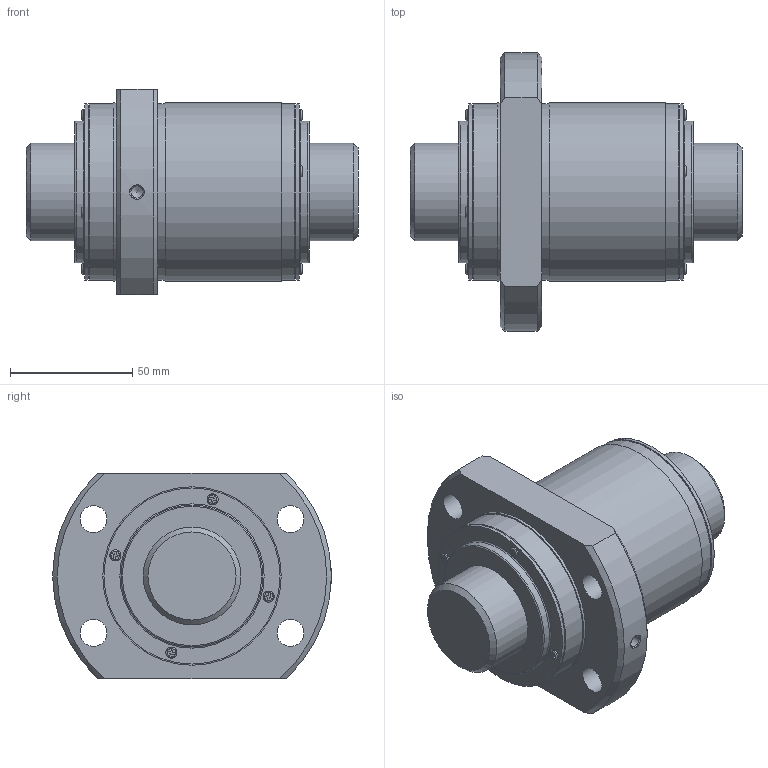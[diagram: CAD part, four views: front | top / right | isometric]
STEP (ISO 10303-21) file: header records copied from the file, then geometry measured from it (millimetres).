
FILE_DESCRIPTION(/* description */ ('STEP AP203'),/* implementation_level */ '2;1');
FILE_NAME(/* name */ 'BLK4040-7.2ZZ+135.8LC7T_000',/* time_stamp */ '2025-06-11T06:31:27+02:00',/* author */ ('License CC BY-ND 4.0'),/* organization */ ('CADENAS'),/* preprocessor_version */ 'ST-DEVELOPER v19.3',/* originating_system */ 'PARTsolutions',/* authorisation */ ' ');
FILE_SCHEMA (('CONFIG_CONTROL_DESIGN'));
Length unit declared in the file: millimetre
Products named in the file (3): BLK4040-7.2ZZ+135.8LC7T_000; BLK4040-7.20ZZ0 Shaft; BLK4040-7.2ZZ Nut
Assembly tree (2 placements, depth 2):
  BLK4040-7.2ZZ+135.8LC7T_000
    BLK4040-7.20ZZ0 Shaft
    BLK4040-7.2ZZ Nut
Bounding box: 135.8 x 114 x 84 mm (x, y, z)
Volume: 503977.2 mm3; surface area: 71320.1 mm2
Topology: 2 solids, 2 shells, 207 faces, 517 edges, 339 vertices
Faces by surface type: plane 127, cylinder 58, torus 12, cone 10
Full cylindrical faces by diameter (mm): 4.54 x8, 4.917 x1, 11 x4, 40 x2, 58 x2, 72 x5, 73 x2
Entity records: 6038 total; most frequent: CARTESIAN_POINT 1055, DIRECTION 1020, ORIENTED_EDGE 946, EDGE_CURVE 473, AXIS2_PLACEMENT_3D 346, VERTEX_POINT 338, LINE 328, VECTOR 328
